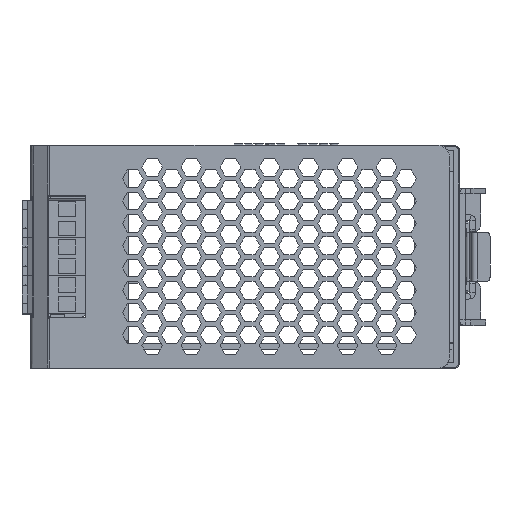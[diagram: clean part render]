
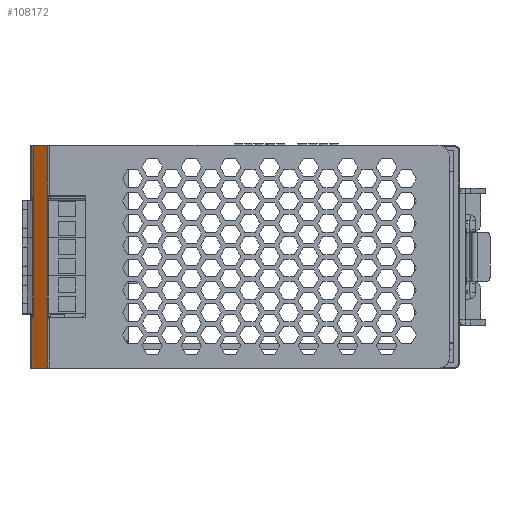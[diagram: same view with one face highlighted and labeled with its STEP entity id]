
A CAD part, front view. The second image highlights one B-rep face of the part: STEP entity #108172.
In plain terms, the highlighted planar face has unit normal (-0.507, -0.862, 0).
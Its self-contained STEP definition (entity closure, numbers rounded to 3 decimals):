
#661 = DIRECTION ( 'NONE',  ( -0.862, 0.508, 0. ) ) ;
#779 = CARTESIAN_POINT ( 'NONE',  ( -53.23, -61.8, 46.43 ) ) ;
#2325 = VECTOR ( 'NONE', #142525, 1000. ) ;
#3424 = ORIENTED_EDGE ( 'NONE', *, *, #23769, .T. ) ;
#4057 = VERTEX_POINT ( 'NONE', #120403 ) ;
#5147 = CARTESIAN_POINT ( 'NONE',  ( -53.347, -61.731, 13.45 ) ) ;
#8478 = VERTEX_POINT ( 'NONE', #87826 ) ;
#9843 = CARTESIAN_POINT ( 'NONE',  ( -53.23, -61.8, 13.6 ) ) ;
#11186 = CARTESIAN_POINT ( 'NONE',  ( -53.23, -61.8, 13.6 ) ) ;
#14705 = EDGE_CURVE ( 'NONE', #68375, #146562, #139187, .T. ) ;
#15789 = ORIENTED_EDGE ( 'NONE', *, *, #63088, .T. ) ;
#16072 = EDGE_CURVE ( 'NONE', #92739, #70682, #127856, .T. ) ;
#16804 = ORIENTED_EDGE ( 'NONE', *, *, #94426, .T. ) ;
#17114 = CARTESIAN_POINT ( 'NONE',  ( -53.482, -61.652, 13.406 ) ) ;
#19208 = CARTESIAN_POINT ( 'NONE',  ( -53.23, -61.8, 0. ) ) ;
#20332 = CARTESIAN_POINT ( 'NONE',  ( -53.512, -61.634, 46.597 ) ) ;
#20791 = B_SPLINE_CURVE_WITH_KNOTS ( 'NONE', 3,
 ( #102469, #114432, #66517, #88235 ),
 .UNSPECIFIED., .F., .F.,
 ( 4, 4 ),
 ( 0., 1. ),
 .UNSPECIFIED. ) ;
#21785 = CARTESIAN_POINT ( 'NONE',  ( -53.274, -61.774, 46.504 ) ) ;
#22105 = ORIENTED_EDGE ( 'NONE', *, *, #111731, .T. ) ;
#23769 = EDGE_CURVE ( 'NONE', #4057, #74984, #60962, .T. ) ;
#25260 = CARTESIAN_POINT ( 'NONE',  ( -53.23, -61.8, 13.8 ) ) ;
#26053 = FACE_OUTER_BOUND ( 'NONE', #117691, .T. ) ;
#27773 = EDGE_CURVE ( 'NONE', #98110, #68375, #84093, .T. ) ;
#29090 = CARTESIAN_POINT ( 'NONE',  ( -53.512, -61.634, 13.403 ) ) ;
#29301 = ORIENTED_EDGE ( 'NONE', *, *, #143089, .T. ) ;
#32395 = VERTEX_POINT ( 'NONE', #101312 ) ;
#33006 = CARTESIAN_POINT ( 'NONE',  ( -53.23, -61.8, 46.4 ) ) ;
#33222 = CARTESIAN_POINT ( 'NONE',  ( -53.512, -61.634, 59.9 ) ) ;
#36988 = CARTESIAN_POINT ( 'NONE',  ( -57.359, -59.368, 59.9 ) ) ;
#38021 = PLANE ( 'NONE',  #132510 ) ;
#39186 = DIRECTION ( 'NONE',  ( 0., 0., 1. ) ) ;
#39193 = LINE ( 'NONE', #84900, #2325 ) ;
#39210 = DIRECTION ( 'NONE',  ( 0., 0., 1. ) ) ;
#45735 = CARTESIAN_POINT ( 'NONE',  ( -53.451, -61.67, 46.591 ) ) ;
#47195 = CARTESIAN_POINT ( 'NONE',  ( -53.512, -61.634, 46.597 ) ) ;
#48222 = EDGE_CURVE ( 'NONE', #140031, #32395, #20791, .T. ) ;
#52653 = CARTESIAN_POINT ( 'NONE',  ( -53.23, -61.8, 46.2 ) ) ;
#53651 = DIRECTION ( 'NONE',  ( -0.862, 0.508, 0. ) ) ;
#54832 = ORIENTED_EDGE ( 'NONE', *, *, #93563, .T. ) ;
#56582 = EDGE_CURVE ( 'NONE', #32395, #92673, #132232, .T. ) ;
#58411 = VECTOR ( 'NONE', #39186, 1000. ) ;
#59045 = CARTESIAN_POINT ( 'NONE',  ( -53.512, -61.634, 13.403 ) ) ;
#59232 = VECTOR ( 'NONE', #130492, 1000. ) ;
#59701 = CARTESIAN_POINT ( 'NONE',  ( -53.23, -61.8, 46.4 ) ) ;
#60962 = LINE ( 'NONE', #52653, #130185 ) ;
#61198 = CARTESIAN_POINT ( 'NONE',  ( -53.532, -61.622, 46.2 ) ) ;
#61599 = ORIENTED_EDGE ( 'NONE', *, *, #14705, .T. ) ;
#62124 = ORIENTED_EDGE ( 'NONE', *, *, #123349, .T. ) ;
#62432 = CARTESIAN_POINT ( 'NONE',  ( -53.23, -61.8, 13.8 ) ) ;
#62822 = CARTESIAN_POINT ( 'NONE',  ( -53.437, -61.679, 13.415 ) ) ;
#63088 = EDGE_CURVE ( 'NONE', #92673, #132344, #39193, .T. ) ;
#64139 = DIRECTION ( 'NONE',  ( -0.862, 0.508, 0. ) ) ;
#64430 = ORIENTED_EDGE ( 'NONE', *, *, #16072, .T. ) ;
#64630 = CARTESIAN_POINT ( 'NONE',  ( -57.359, -59.368, 0.1 ) ) ;
#66517 = CARTESIAN_POINT ( 'NONE',  ( -57.358, -59.368, 24.6 ) ) ;
#67477 = CARTESIAN_POINT ( 'NONE',  ( -53.299, -61.759, 46.524 ) ) ;
#68375 = VERTEX_POINT ( 'NONE', #33222 ) ;
#69702 = CARTESIAN_POINT ( 'NONE',  ( -53.315, -61.75, 46.534 ) ) ;
#70682 = VERTEX_POINT ( 'NONE', #142170 ) ;
#72108 = EDGE_CURVE ( 'NONE', #8478, #4057, #109105, .T. ) ;
#74984 = VERTEX_POINT ( 'NONE', #59701 ) ;
#75375 = VECTOR ( 'NONE', #102712, 1000. ) ;
#75524 = CARTESIAN_POINT ( 'NONE',  ( -53.23, -61.8, 13.539 ) ) ;
#78711 = CARTESIAN_POINT ( 'NONE',  ( -53.243, -61.793, 46.471 ) ) ;
#81850 = CARTESIAN_POINT ( 'NONE',  ( -53.512, -61.634, 0.1 ) ) ;
#83168 = B_SPLINE_CURVE_WITH_KNOTS ( 'NONE', 3,
 ( #29090, #17114, #62822, #129493, #108496, #5147, #130225, #75524, #86039 ),
 .UNSPECIFIED., .F., .F.,
 ( 4, 1, 2, 2, 4 ),
 ( 0., 0.25, 0.375, 0.5, 1. ),
 .UNSPECIFIED. ) ;
#83428 = DIRECTION ( 'NONE',  ( 0., 0., -1. ) ) ;
#84093 = LINE ( 'NONE', #138762, #59232 ) ;
#84900 = CARTESIAN_POINT ( 'NONE',  ( -57.359, -59.368, 0.1 ) ) ;
#86039 = CARTESIAN_POINT ( 'NONE',  ( -53.23, -61.8, 13.6 ) ) ;
#87826 = CARTESIAN_POINT ( 'NONE',  ( -53.532, -61.622, 46.2 ) ) ;
#88235 = CARTESIAN_POINT ( 'NONE',  ( -57.358, -59.368, 13.8 ) ) ;
#90732 = LINE ( 'NONE', #9843, #75375 ) ;
#91640 = VECTOR ( 'NONE', #97126, 1000. ) ;
#92673 = VERTEX_POINT ( 'NONE', #64630 ) ;
#92739 = VERTEX_POINT ( 'NONE', #62432 ) ;
#93563 = EDGE_CURVE ( 'NONE', #107936, #143468, #83168, .T. ) ;
#94426 = EDGE_CURVE ( 'NONE', #132344, #107936, #134828, .T. ) ;
#96071 = VECTOR ( 'NONE', #661, 1000. ) ;
#96127 = LINE ( 'NONE', #141778, #58411 ) ;
#97126 = DIRECTION ( 'NONE',  ( 0.862, -0.508, 0. ) ) ;
#98110 = VERTEX_POINT ( 'NONE', #20332 ) ;
#101312 = CARTESIAN_POINT ( 'NONE',  ( -57.358, -59.368, 13.8 ) ) ;
#102469 = CARTESIAN_POINT ( 'NONE',  ( -57.358, -59.368, 46.2 ) ) ;
#102712 = DIRECTION ( 'NONE',  ( 0., 0., 1. ) ) ;
#106839 = CARTESIAN_POINT ( 'NONE',  ( -57.358, -59.368, 13.8 ) ) ;
#107936 = VERTEX_POINT ( 'NONE', #59045 ) ;
#108172 = ADVANCED_FACE ( 'NONE', ( #26053 ), #38021, .T. ) ;
#108496 = CARTESIAN_POINT ( 'NONE',  ( -53.361, -61.723, 13.444 ) ) ;
#109096 = ORIENTED_EDGE ( 'NONE', *, *, #56582, .T. ) ;
#109105 = LINE ( 'NONE', #61198, #91640 ) ;
#109177 = B_SPLINE_CURVE_WITH_KNOTS ( 'NONE', 3,
 ( #33006, #779, #78711, #21785, #67477, #69702, #113144, #45735, #47195 ),
 .UNSPECIFIED., .F., .F.,
 ( 4, 1, 2, 2, 4 ),
 ( 0., 0.25, 0.375, 0.5, 1. ),
 .UNSPECIFIED. ) ;
#109790 = DIRECTION ( 'NONE',  ( 0., 0., -1. ) ) ;
#111731 = EDGE_CURVE ( 'NONE', #146562, #140031, #117123, .T. ) ;
#111976 = EDGE_CURVE ( 'NONE', #70682, #8478, #96127, .T. ) ;
#112948 = VECTOR ( 'NONE', #64139, 1000. ) ;
#113144 = CARTESIAN_POINT ( 'NONE',  ( -53.391, -61.706, 46.572 ) ) ;
#114432 = CARTESIAN_POINT ( 'NONE',  ( -57.358, -59.368, 35.4 ) ) ;
#114619 = DIRECTION ( 'NONE',  ( 0., 0., 1. ) ) ;
#115980 = CARTESIAN_POINT ( 'NONE',  ( -53.512, -61.634, 59.9 ) ) ;
#117123 = LINE ( 'NONE', #36988, #123059 ) ;
#117691 = EDGE_LOOP ( 'NONE', ( #132858, #109096, #15789, #16804, #54832, #29301, #64430, #126461, #133141, #3424, #62124, #139143, #61599, #22105 ) ) ;
#119550 = CARTESIAN_POINT ( 'NONE',  ( -57.359, -59.368, 59.9 ) ) ;
#120403 = CARTESIAN_POINT ( 'NONE',  ( -53.23, -61.8, 46.2 ) ) ;
#122568 = DIRECTION ( 'NONE',  ( -0.508, -0.862, 0. ) ) ;
#123059 = VECTOR ( 'NONE', #83428, 1000. ) ;
#123349 = EDGE_CURVE ( 'NONE', #74984, #98110, #109177, .T. ) ;
#124858 = VECTOR ( 'NONE', #114619, 1000. ) ;
#126461 = ORIENTED_EDGE ( 'NONE', *, *, #111976, .T. ) ;
#127856 = LINE ( 'NONE', #25260, #112948 ) ;
#129493 = CARTESIAN_POINT ( 'NONE',  ( -53.391, -61.705, 13.431 ) ) ;
#130185 = VECTOR ( 'NONE', #39210, 1000. ) ;
#130225 = CARTESIAN_POINT ( 'NONE',  ( -53.264, -61.78, 13.492 ) ) ;
#130492 = DIRECTION ( 'NONE',  ( 0., 0., 1. ) ) ;
#132232 = LINE ( 'NONE', #106839, #132953 ) ;
#132344 = VERTEX_POINT ( 'NONE', #81850 ) ;
#132510 = AXIS2_PLACEMENT_3D ( 'NONE', #19208, #122568, #53651 ) ;
#132858 = ORIENTED_EDGE ( 'NONE', *, *, #48222, .T. ) ;
#132953 = VECTOR ( 'NONE', #109790, 1000. ) ;
#133141 = ORIENTED_EDGE ( 'NONE', *, *, #72108, .T. ) ;
#134828 = LINE ( 'NONE', #136337, #124858 ) ;
#136337 = CARTESIAN_POINT ( 'NONE',  ( -53.512, -61.634, 0.1 ) ) ;
#136697 = CARTESIAN_POINT ( 'NONE',  ( -57.358, -59.368, 46.2 ) ) ;
#138762 = CARTESIAN_POINT ( 'NONE',  ( -53.512, -61.634, 46.597 ) ) ;
#139143 = ORIENTED_EDGE ( 'NONE', *, *, #27773, .T. ) ;
#139187 = LINE ( 'NONE', #115980, #96071 ) ;
#140031 = VERTEX_POINT ( 'NONE', #136697 ) ;
#141778 = CARTESIAN_POINT ( 'NONE',  ( -53.532, -61.622, 13.8 ) ) ;
#142170 = CARTESIAN_POINT ( 'NONE',  ( -53.532, -61.622, 13.8 ) ) ;
#142525 = DIRECTION ( 'NONE',  ( 0.862, -0.508, 0. ) ) ;
#143089 = EDGE_CURVE ( 'NONE', #143468, #92739, #90732, .T. ) ;
#143468 = VERTEX_POINT ( 'NONE', #11186 ) ;
#146562 = VERTEX_POINT ( 'NONE', #119550 ) ;
